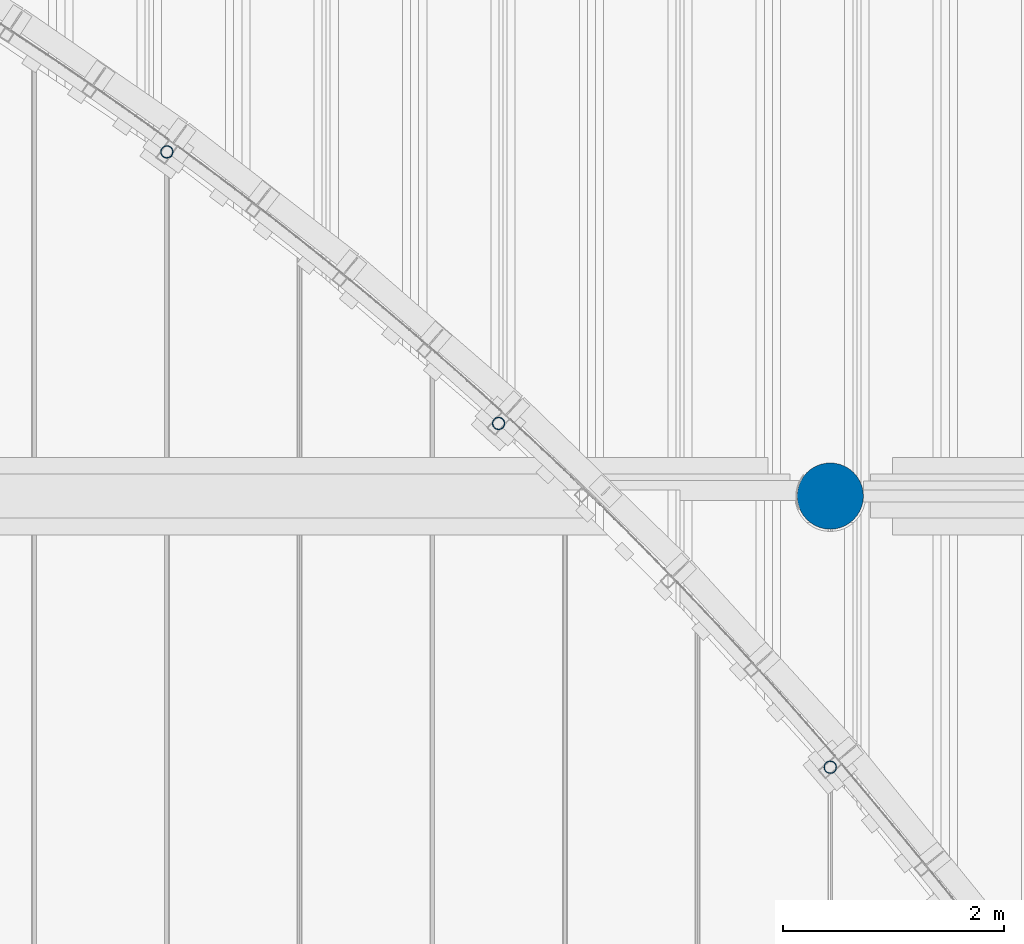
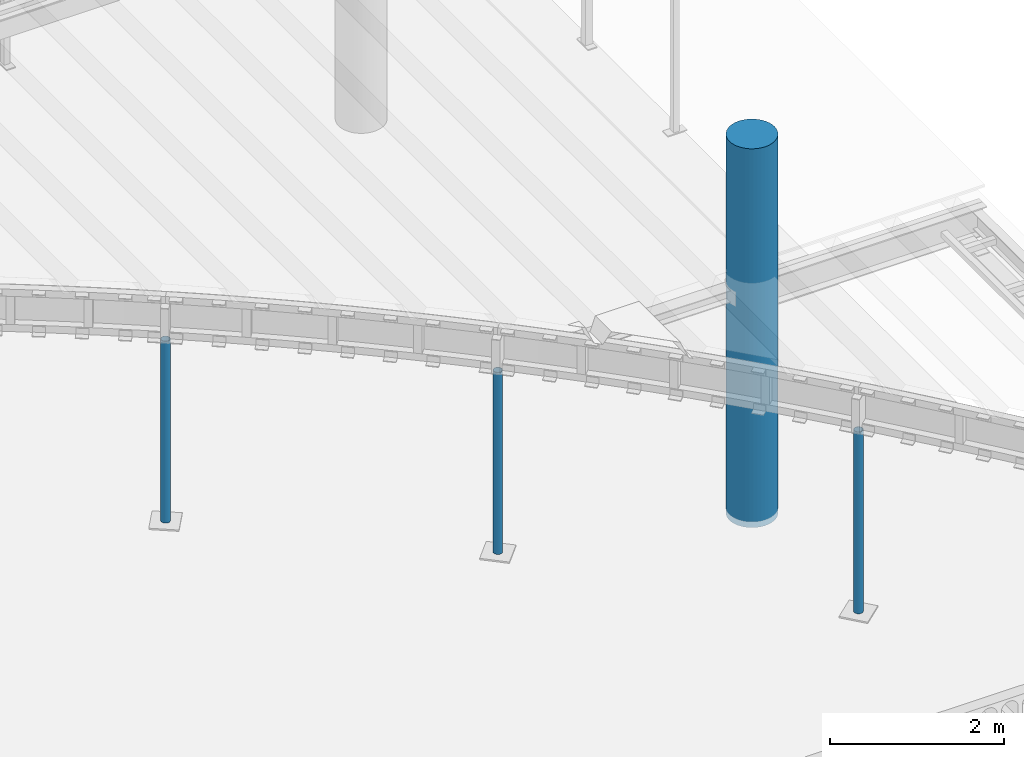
# One storey, part 1 of 98: 4 columns.
"""IFC2X3 building model written with IfcOpenShell, lengths in millimetres."""

from ifc_helpers import new_model, entity, si_unit, converted_unit, derived_unit, direction, frame, origin_with_axes, place, context, subcontext, project, spatial, faceted_brep, material, type_object, element, save


model = new_model("IFC2X3")

# Units and contexts
model_context = context("Model", 3, precision=0.01, world=frame((0.0, 4.29681676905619e-09, 0.0)), true_north=direction((4.01073788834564e-13, 1.0)))
plan_context = context("Plan", 3, precision=0.01, world=frame((0.0, 4.29681676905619e-09, 0.0)), true_north=direction((4.01073788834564e-13, 1.0)))
body_context = subcontext(model_context, "Body", "Model", "MODEL_VIEW")
ifc_project = project(units=[converted_unit("PLANEANGLEUNIT", "DEGREE", entity("IfcPositiveLengthMeasure", 0.0174532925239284), si_unit("PLANEANGLEUNIT", "RADIAN"), dimensions=[0, 0, 0, 0, 0, 0, 0]), si_unit("AREAUNIT", "SQUARE_METRE"), si_unit("LENGTHUNIT", "METRE", prefix="MILLI"), si_unit("MASSUNIT", "GRAM", prefix="KILO"), si_unit("POWERUNIT", "WATT"), si_unit("PRESSUREUNIT", "PASCAL"), si_unit("FORCEUNIT", "NEWTON", prefix="KILO"), si_unit("ELECTRICCURRENTUNIT", "AMPERE"), si_unit("THERMODYNAMICTEMPERATUREUNIT", "DEGREE_CELSIUS"), si_unit("TIMEUNIT", "SECOND"), si_unit("VOLUMEUNIT", "CUBIC_METRE"), derived_unit("LINEARVELOCITYUNIT", [(si_unit("LENGTHUNIT", "METRE"), 1), (si_unit("TIMEUNIT", "SECOND"), -1)]), derived_unit("VOLUMETRICFLOWRATEUNIT", [(si_unit("VOLUMEUNIT", "CUBIC_METRE"), 1), (si_unit("TIMEUNIT", "SECOND"), -1)]), derived_unit("THERMALTRANSMITTANCEUNIT", [(si_unit("POWERUNIT", "WATT"), 1), (si_unit("THERMODYNAMICTEMPERATUREUNIT", "KELVIN"), -1), (si_unit("AREAUNIT", "SQUARE_METRE"), -1)])], contexts=[model_context, plan_context])

# Site, building, storey
site_placement = place(None, frame((0.0, -4.29681676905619e-09, 0.0), z_axis=(0.0, 0.0, 1.0), x_axis=(1.0, 0.0, 0.0)))
site = spatial("IfcSite", under=ifc_project, at=site_placement, Name="Gardermoen", CompositionType="ELEMENT")
building_placement = place(site_placement, frame((0.0, 4.29681676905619e-09, 0.0), z_axis=(0.0, 0.0, 1.0), x_axis=(1.0, 0.0, 0.0)))
building = spatial("IfcBuilding", under=site, at=building_placement, Name="TS", CompositionType="ELEMENT")
storey_placement = place(building_placement, origin_with_axes())
storey = spatial("IfcBuildingStorey", under=building, at=storey_placement, Name="D", CompositionType="ELEMENT", Elevation=0.0)

# Columns
ifc_material_1 = material(Name="STEEL/S355")
column_type_1 = type_object("IfcColumnType", Name="RØR114.3X6.0", PredefinedType="NOTDEFINED")
column_1_placement = place(storey_placement, frame((522999.971294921, 408613.091807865, 203930.0), z_axis=(-0.807166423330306, 0.590323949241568, 0.0), x_axis=(0.0, 0.0, 1.0)))
element("IfcColumn", 1, at=column_1_placement, inside=storey, type_object=column_type_1, material=ifc_material_1, Name="STÅLSØYLE", ObjectType="RØR114.3X6.0", context=body_context, shape_type="Brep", body=[
    faceted_brep([(20.0, -51.1500000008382, -1.19325704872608e-09), (20.0, -48.6465408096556, 15.8062192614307), (2575.0, -48.6465408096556, 15.8062192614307), (2575.0, -51.1500000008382, -1.19325704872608e-09), (20.0, -41.3812192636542, 30.0652156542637), (2575.0, -41.3812192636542, 30.0652156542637), (20.0, -30.0652156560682, 41.3812192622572), (2575.0, -30.0652156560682, 41.3812192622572), (20.0, -15.8062192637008, 48.646540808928), (2575.0, -15.8062192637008, 48.646540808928), (20.0, -1.04773789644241e-09, 51.1500000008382), (2575.0, -1.04773789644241e-09, 51.1500000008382), (20.0, 15.8062192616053, 48.6465408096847), (2575.0, 15.8062192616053, 48.6465408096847), (20.0, 30.0652156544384, 41.3812192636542), (2575.0, 30.0652156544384, 41.3812192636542), (20.0, 41.3812192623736, 30.0652156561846), (2575.0, 41.3812192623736, 30.0652156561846), (20.0, 48.6465408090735, 15.8062192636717), (2575.0, 48.6465408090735, 15.8062192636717), (20.0, 51.1500000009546, 1.10594555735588e-09), (2575.0, 51.1500000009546, 1.10594555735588e-09), (20.0, 48.646540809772, -15.8062192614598), (2575.0, 48.646540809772, -15.8062192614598), (20.0, 41.3812192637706, -30.0652156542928), (2575.0, 41.3812192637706, -30.0652156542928), (20.0, 30.065215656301, -41.3812192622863), (2575.0, 30.065215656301, -41.3812192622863), (20.0, 15.8062192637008, -48.6465408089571), (2575.0, 15.8062192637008, -48.6465408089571), (20.0, 1.28056854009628e-09, -51.1500000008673), (2575.0, 1.28056854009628e-09, -51.1500000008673), (20.0, -15.8062192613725, -48.6465408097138), (2575.0, -15.8062192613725, -48.6465408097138), (20.0, -30.0652156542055, -41.3812192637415), (2575.0, -30.0652156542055, -41.3812192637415), (20.0, -41.3812192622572, -30.0652156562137), (2575.0, -41.3812192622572, -30.0652156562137), (20.0, -48.6465408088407, -15.8062192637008), (2575.0, -48.6465408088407, -15.8062192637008), (20.0, -57.1500000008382, -1.30967237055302e-09), (20.0, -54.3528799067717, -17.6603212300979), (2575.0, -54.3528799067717, -17.6603212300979), (2575.0, -57.1500000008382, -1.30967237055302e-09), (20.0, -46.2353212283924, -33.5919271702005), (2575.0, -46.2353212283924, -33.5919271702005), (20.0, -33.5919271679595, -46.2353212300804), (2575.0, -33.5919271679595, -46.2353212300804), (20.0, -17.6603212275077, -54.3528799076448), (2575.0, -17.6603212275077, -54.3528799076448), (20.0, 1.39698386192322e-09, -57.1500000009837), (2575.0, 1.39698386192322e-09, -57.1500000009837), (20.0, 17.6603212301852, -54.3528799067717), (2575.0, 17.6603212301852, -54.3528799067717), (20.0, 33.5919271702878, -46.2353212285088), (2575.0, 33.5919271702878, -46.2353212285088), (20.0, 46.2353212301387, -33.5919271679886), (2575.0, 46.2353212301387, -33.5919271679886), (20.0, 54.352879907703, -17.6603212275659), (2575.0, 54.352879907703, -17.6603212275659), (20.0, 57.150000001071, 1.30967237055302e-09), (2575.0, 57.150000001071, 1.30967237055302e-09), (20.0, 54.3528799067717, 17.6603212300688), (2575.0, 54.3528799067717, 17.6603212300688), (20.0, 46.2353212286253, 33.5919271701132), (2575.0, 46.2353212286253, 33.5919271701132), (20.0, 33.5919271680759, 46.2353212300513), (2575.0, 33.5919271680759, 46.2353212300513), (20.0, 17.6603212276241, 54.3528799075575), (2575.0, 17.6603212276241, 54.3528799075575), (20.0, -1.16415321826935e-09, 57.1500000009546), (2575.0, -1.16415321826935e-09, 57.1500000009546), (20.0, -17.6603212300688, 54.3528799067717), (2575.0, -17.6603212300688, 54.3528799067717), (20.0, -33.591927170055, 46.2353212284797), (2575.0, -33.591927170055, 46.2353212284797), (20.0, -46.2353212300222, 33.5919271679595), (2575.0, -46.2353212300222, 33.5919271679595), (20.0, -54.3528799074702, 17.6603212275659), (2575.0, -54.3528799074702, 17.6603212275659)], [[[0, 1, 2, 3]], [[1, 4, 5, 2]], [[4, 6, 7, 5]], [[6, 8, 9, 7]], [[8, 10, 11, 9]], [[10, 12, 13, 11]], [[12, 14, 15, 13]], [[14, 16, 17, 15]], [[16, 18, 19, 17]], [[18, 20, 21, 19]], [[20, 22, 23, 21]], [[22, 24, 25, 23]], [[24, 26, 27, 25]], [[26, 28, 29, 27]], [[28, 30, 31, 29]], [[30, 32, 33, 31]], [[32, 34, 35, 33]], [[34, 36, 37, 35]], [[36, 38, 39, 37]], [[38, 0, 3, 39]], [[40, 41, 42, 43]], [[41, 44, 45, 42]], [[44, 46, 47, 45]], [[46, 48, 49, 47]], [[48, 50, 51, 49]], [[50, 52, 53, 51]], [[52, 54, 55, 53]], [[54, 56, 57, 55]], [[56, 58, 59, 57]], [[58, 60, 61, 59]], [[60, 62, 63, 61]], [[62, 64, 65, 63]], [[64, 66, 67, 65]], [[66, 68, 69, 67]], [[68, 70, 71, 69]], [[70, 72, 73, 71]], [[72, 74, 75, 73]], [[74, 76, 77, 75]], [[76, 78, 79, 77]], [[78, 40, 43, 79]], [[45, 47, 49, 51, 53, 55, 57, 59, 61, 63, 65, 67, 69, 71, 73, 75, 77, 79, 43, 42], [5, 7, 9, 11, 13, 15, 17, 19, 21, 23, 25, 27, 29, 31, 33, 35, 37, 39, 3, 2]], [[78, 76, 74, 72, 70, 68, 66, 64, 62, 60, 58, 56, 54, 52, 50, 48, 46, 44, 41, 40], [38, 36, 34, 32, 30, 28, 26, 24, 22, 20, 18, 16, 14, 12, 10, 8, 6, 4, 1, 0]]]),
])
column_2_placement = place(storey_placement, frame((525999.998435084, 406157.084929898, 203930.0), z_axis=(-0.737843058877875, 0.674972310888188, 0.0), x_axis=(0.0, 0.0, 1.0)))
element("IfcColumn", 2, at=column_2_placement, inside=storey, type_object=column_type_1, material=ifc_material_1, Name="STÅLSØYLE", ObjectType="RØR114.3X6.0", context=body_context, shape_type="Brep", body=[
    faceted_brep([(20.0, -51.1500000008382, -1.19325704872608e-09), (20.0, -48.6465408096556, 15.8062192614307), (2575.0, -48.6465408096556, 15.8062192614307), (2575.0, -51.1500000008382, -1.19325704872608e-09), (20.0, -41.3812192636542, 30.0652156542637), (2575.0, -41.3812192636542, 30.0652156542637), (20.0, -30.0652156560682, 41.3812192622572), (2575.0, -30.0652156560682, 41.3812192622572), (20.0, -15.8062192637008, 48.646540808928), (2575.0, -15.8062192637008, 48.646540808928), (20.0, -1.04773789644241e-09, 51.1500000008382), (2575.0, -1.04773789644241e-09, 51.1500000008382), (20.0, 15.8062192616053, 48.6465408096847), (2575.0, 15.8062192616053, 48.6465408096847), (20.0, 30.0652156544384, 41.3812192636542), (2575.0, 30.0652156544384, 41.3812192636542), (20.0, 41.3812192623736, 30.0652156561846), (2575.0, 41.3812192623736, 30.0652156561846), (20.0, 48.6465408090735, 15.8062192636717), (2575.0, 48.6465408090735, 15.8062192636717), (20.0, 51.1500000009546, 1.10594555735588e-09), (2575.0, 51.1500000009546, 1.10594555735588e-09), (20.0, 48.646540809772, -15.8062192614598), (2575.0, 48.646540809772, -15.8062192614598), (20.0, 41.3812192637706, -30.0652156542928), (2575.0, 41.3812192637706, -30.0652156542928), (20.0, 30.065215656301, -41.3812192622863), (2575.0, 30.065215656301, -41.3812192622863), (20.0, 15.8062192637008, -48.6465408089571), (2575.0, 15.8062192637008, -48.6465408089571), (20.0, 1.28056854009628e-09, -51.1500000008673), (2575.0, 1.28056854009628e-09, -51.1500000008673), (20.0, -15.8062192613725, -48.6465408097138), (2575.0, -15.8062192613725, -48.6465408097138), (20.0, -30.0652156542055, -41.3812192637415), (2575.0, -30.0652156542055, -41.3812192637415), (20.0, -41.3812192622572, -30.0652156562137), (2575.0, -41.3812192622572, -30.0652156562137), (20.0, -48.6465408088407, -15.8062192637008), (2575.0, -48.6465408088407, -15.8062192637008), (20.0, -57.1500000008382, -1.30967237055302e-09), (20.0, -54.3528799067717, -17.6603212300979), (2575.0, -54.3528799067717, -17.6603212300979), (2575.0, -57.1500000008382, -1.30967237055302e-09), (20.0, -46.2353212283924, -33.5919271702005), (2575.0, -46.2353212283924, -33.5919271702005), (20.0, -33.5919271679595, -46.2353212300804), (2575.0, -33.5919271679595, -46.2353212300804), (20.0, -17.6603212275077, -54.3528799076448), (2575.0, -17.6603212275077, -54.3528799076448), (20.0, 1.39698386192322e-09, -57.1500000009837), (2575.0, 1.39698386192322e-09, -57.1500000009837), (20.0, 17.6603212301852, -54.3528799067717), (2575.0, 17.6603212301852, -54.3528799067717), (20.0, 33.5919271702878, -46.2353212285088), (2575.0, 33.5919271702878, -46.2353212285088), (20.0, 46.2353212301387, -33.5919271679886), (2575.0, 46.2353212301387, -33.5919271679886), (20.0, 54.352879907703, -17.6603212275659), (2575.0, 54.352879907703, -17.6603212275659), (20.0, 57.150000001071, 1.30967237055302e-09), (2575.0, 57.150000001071, 1.30967237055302e-09), (20.0, 54.3528799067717, 17.6603212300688), (2575.0, 54.3528799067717, 17.6603212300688), (20.0, 46.2353212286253, 33.5919271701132), (2575.0, 46.2353212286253, 33.5919271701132), (20.0, 33.5919271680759, 46.2353212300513), (2575.0, 33.5919271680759, 46.2353212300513), (20.0, 17.6603212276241, 54.3528799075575), (2575.0, 17.6603212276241, 54.3528799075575), (20.0, -1.16415321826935e-09, 57.1500000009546), (2575.0, -1.16415321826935e-09, 57.1500000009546), (20.0, -17.6603212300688, 54.3528799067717), (2575.0, -17.6603212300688, 54.3528799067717), (20.0, -33.591927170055, 46.2353212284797), (2575.0, -33.591927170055, 46.2353212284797), (20.0, -46.2353212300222, 33.5919271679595), (2575.0, -46.2353212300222, 33.5919271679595), (20.0, -54.3528799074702, 17.6603212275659), (2575.0, -54.3528799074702, 17.6603212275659)], [[[0, 1, 2, 3]], [[1, 4, 5, 2]], [[4, 6, 7, 5]], [[6, 8, 9, 7]], [[8, 10, 11, 9]], [[10, 12, 13, 11]], [[12, 14, 15, 13]], [[14, 16, 17, 15]], [[16, 18, 19, 17]], [[18, 20, 21, 19]], [[20, 22, 23, 21]], [[22, 24, 25, 23]], [[24, 26, 27, 25]], [[26, 28, 29, 27]], [[28, 30, 31, 29]], [[30, 32, 33, 31]], [[32, 34, 35, 33]], [[34, 36, 37, 35]], [[36, 38, 39, 37]], [[38, 0, 3, 39]], [[40, 41, 42, 43]], [[41, 44, 45, 42]], [[44, 46, 47, 45]], [[46, 48, 49, 47]], [[48, 50, 51, 49]], [[50, 52, 53, 51]], [[52, 54, 55, 53]], [[54, 56, 57, 55]], [[56, 58, 59, 57]], [[58, 60, 61, 59]], [[60, 62, 63, 61]], [[62, 64, 65, 63]], [[64, 66, 67, 65]], [[66, 68, 69, 67]], [[68, 70, 71, 69]], [[70, 72, 73, 71]], [[72, 74, 75, 73]], [[74, 76, 77, 75]], [[76, 78, 79, 77]], [[78, 40, 43, 79]], [[45, 47, 49, 51, 53, 55, 57, 59, 61, 63, 65, 67, 69, 71, 73, 75, 77, 79, 43, 42], [5, 7, 9, 11, 13, 15, 17, 19, 21, 23, 25, 27, 29, 31, 33, 35, 37, 39, 3, 2]], [[78, 76, 74, 72, 70, 68, 66, 64, 62, 60, 58, 56, 54, 52, 50, 48, 46, 44, 41, 40], [38, 36, 34, 32, 30, 28, 26, 24, 22, 20, 18, 16, 14, 12, 10, 8, 6, 4, 1, 0]]]),
])
column_type_2 = type_object("IfcColumnType", Name="RØR114.3X5.0", PredefinedType="NOTDEFINED")
column_3_placement = place(storey_placement, frame((529000.0, 403047.744245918, 203930.0), z_axis=(-0.759100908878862, -0.650972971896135, 0.0), x_axis=(0.0, 0.0, 1.0)))
element("IfcColumn", 3, at=column_3_placement, inside=storey, type_object=column_type_2, material=ifc_material_1, Name="STÅLSØYLE", ObjectType="RØR114.3X5.0", context=body_context, shape_type="Brep", body=[
    faceted_brep([(20.0, -52.1500000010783, -1.16415321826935e-09), (20.0, -49.5975973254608, 16.1152362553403), (2575.0, -49.5975973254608, 16.1152362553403), (2575.0, -52.1500000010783, -1.16415321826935e-09), (20.0, -42.1902362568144, 30.6530009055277), (2575.0, -42.1902362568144, 30.6530009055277), (20.0, -30.6530009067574, 42.1902362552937), (2575.0, -30.6530009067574, 42.1902362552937), (20.0, -16.1152362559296, 49.5975973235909), (2575.0, -16.1152362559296, 49.5975973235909), (20.0, 1.04046193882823e-09, 52.1499999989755), (2575.0, 1.04046193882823e-09, 52.1499999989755), (20.0, 16.1152362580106, 49.5975973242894), (2575.0, 16.1152362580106, 49.5975973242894), (20.0, 30.6530009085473, 42.1902362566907), (2575.0, 30.6530009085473, 42.1902362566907), (20.0, 42.1902362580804, 30.6530009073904), (2575.0, 42.1902362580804, 30.6530009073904), (20.0, 49.5975973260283, 16.1152362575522), (2575.0, 49.5975973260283, 16.1152362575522), (20.0, 52.1500000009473, 1.16415321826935e-09), (2575.0, 52.1500000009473, 1.16415321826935e-09), (20.0, 49.5975973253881, -16.1152362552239), (2575.0, 49.5975973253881, -16.1152362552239), (20.0, 42.1902362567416, -30.6530009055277), (2575.0, 42.1902362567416, -30.6530009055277), (20.0, 30.6530009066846, -42.1902362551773), (2575.0, 30.6530009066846, -42.1902362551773), (20.0, 16.1152362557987, -49.5975973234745), (2575.0, 16.1152362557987, -49.5975973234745), (20.0, -1.17142917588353e-09, -52.1499999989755), (2575.0, -1.17142917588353e-09, -52.1499999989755), (20.0, -16.1152362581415, -49.5975973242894), (2575.0, -16.1152362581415, -49.5975973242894), (20.0, -30.6530009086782, -42.1902362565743), (2575.0, -30.6530009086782, -42.1902362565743), (20.0, -42.190236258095, -30.6530009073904), (2575.0, -42.190236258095, -30.6530009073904), (20.0, -49.5975973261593, -16.1152362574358), (2575.0, -49.5975973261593, -16.1152362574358), (20.0, -57.1500000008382, -1.30967237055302e-09), (20.0, -54.3528799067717, -17.6603212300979), (2575.0, -54.3528799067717, -17.6603212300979), (2575.0, -57.1500000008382, -1.30967237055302e-09), (20.0, -46.2353212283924, -33.5919271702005), (2575.0, -46.2353212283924, -33.5919271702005), (20.0, -33.5919271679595, -46.2353212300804), (2575.0, -33.5919271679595, -46.2353212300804), (20.0, -17.6603212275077, -54.3528799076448), (2575.0, -17.6603212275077, -54.3528799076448), (20.0, 1.39698386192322e-09, -57.1500000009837), (2575.0, 1.39698386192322e-09, -57.1500000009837), (20.0, 17.6603212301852, -54.3528799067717), (2575.0, 17.6603212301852, -54.3528799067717), (20.0, 33.5919271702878, -46.2353212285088), (2575.0, 33.5919271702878, -46.2353212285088), (20.0, 46.2353212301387, -33.5919271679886), (2575.0, 46.2353212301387, -33.5919271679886), (20.0, 54.352879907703, -17.6603212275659), (2575.0, 54.352879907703, -17.6603212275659), (20.0, 57.150000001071, 1.30967237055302e-09), (2575.0, 57.150000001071, 1.30967237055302e-09), (20.0, 54.3528799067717, 17.6603212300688), (2575.0, 54.3528799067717, 17.6603212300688), (20.0, 46.2353212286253, 33.5919271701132), (2575.0, 46.2353212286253, 33.5919271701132), (20.0, 33.5919271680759, 46.2353212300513), (2575.0, 33.5919271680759, 46.2353212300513), (20.0, 17.6603212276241, 54.3528799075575), (2575.0, 17.6603212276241, 54.3528799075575), (20.0, -1.16415321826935e-09, 57.1500000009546), (2575.0, -1.16415321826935e-09, 57.1500000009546), (20.0, -17.6603212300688, 54.3528799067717), (2575.0, -17.6603212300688, 54.3528799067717), (20.0, -33.591927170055, 46.2353212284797), (2575.0, -33.591927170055, 46.2353212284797), (20.0, -46.2353212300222, 33.5919271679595), (2575.0, -46.2353212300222, 33.5919271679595), (20.0, -54.3528799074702, 17.6603212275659), (2575.0, -54.3528799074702, 17.6603212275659)], [[[0, 1, 2, 3]], [[1, 4, 5, 2]], [[4, 6, 7, 5]], [[6, 8, 9, 7]], [[8, 10, 11, 9]], [[10, 12, 13, 11]], [[12, 14, 15, 13]], [[14, 16, 17, 15]], [[16, 18, 19, 17]], [[18, 20, 21, 19]], [[20, 22, 23, 21]], [[22, 24, 25, 23]], [[24, 26, 27, 25]], [[26, 28, 29, 27]], [[28, 30, 31, 29]], [[30, 32, 33, 31]], [[32, 34, 35, 33]], [[34, 36, 37, 35]], [[36, 38, 39, 37]], [[38, 0, 3, 39]], [[40, 41, 42, 43]], [[41, 44, 45, 42]], [[44, 46, 47, 45]], [[46, 48, 49, 47]], [[48, 50, 51, 49]], [[50, 52, 53, 51]], [[52, 54, 55, 53]], [[54, 56, 57, 55]], [[56, 58, 59, 57]], [[58, 60, 61, 59]], [[60, 62, 63, 61]], [[62, 64, 65, 63]], [[64, 66, 67, 65]], [[66, 68, 69, 67]], [[68, 70, 71, 69]], [[70, 72, 73, 71]], [[72, 74, 75, 73]], [[74, 76, 77, 75]], [[76, 78, 79, 77]], [[78, 40, 43, 79]], [[45, 47, 49, 51, 53, 55, 57, 59, 61, 63, 65, 67, 69, 71, 73, 75, 77, 79, 43, 42], [5, 7, 9, 11, 13, 15, 17, 19, 21, 23, 25, 27, 29, 31, 33, 35, 37, 39, 3, 2]], [[78, 76, 74, 72, 70, 68, 66, 64, 62, 60, 58, 56, 54, 52, 50, 48, 46, 44, 41, 40], [38, 36, 34, 32, 30, 28, 26, 24, 22, 20, 18, 16, 14, 12, 10, 8, 6, 4, 1, 0]]]),
])
ifc_material_2 = material(Name="CONCRETE/C45/55")
column_type_3 = type_object("IfcColumnType", Name="D600", PredefinedType="NOTDEFINED")
column_4_placement = place(storey_placement, frame((529000.0, 405500.0, 203845.0), z_axis=(0.0, 1.0, 0.0), x_axis=(0.0, 0.0, 1.0)))
element("IfcColumn", 4, at=column_4_placement, inside=storey, type_object=column_type_3, material=ifc_material_2, Name="PREFABSØYLE", ObjectType="D600", context=body_context, shape_type="Brep", body=[
    faceted_brep([(0.0, -300.0, 0.0), (0.0, -296.306502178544, -46.930339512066), (5325.0, -296.306502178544, -46.930339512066), (5325.0, -300.0, 0.0), (0.0, -285.31695488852, -92.7050983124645), (5325.0, -285.31695488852, -92.7050983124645), (0.0, -267.30195725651, -136.197149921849), (5325.0, -267.30195725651, -136.197149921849), (0.0, -242.705098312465, -176.335575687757), (5325.0, -242.705098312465, -176.335575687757), (0.0, -212.132034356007, -212.132034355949), (5325.0, -212.132034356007, -212.132034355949), (0.0, -176.335575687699, -242.705098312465), (5325.0, -176.335575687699, -242.705098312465), (0.0, -136.197149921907, -267.30195725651), (5325.0, -136.197149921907, -267.30195725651), (0.0, -92.7050983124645, -285.31695488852), (5325.0, -92.7050983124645, -285.31695488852), (0.0, -46.930339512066, -296.306502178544), (5325.0, -46.930339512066, -296.306502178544), (0.0, 0.0, -300.0), (5325.0, 0.0, -300.0), (0.0, 46.930339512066, -296.306502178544), (5325.0, 46.930339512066, -296.306502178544), (0.0, 92.7050983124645, -285.31695488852), (5325.0, 92.7050983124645, -285.31695488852), (0.0, 136.197149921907, -267.30195725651), (5325.0, 136.197149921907, -267.30195725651), (0.0, 176.335575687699, -242.705098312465), (5325.0, 176.335575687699, -242.705098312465), (0.0, 212.132034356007, -212.132034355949), (5325.0, 212.132034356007, -212.132034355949), (0.0, 242.705098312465, -176.335575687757), (5325.0, 242.705098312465, -176.335575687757), (0.0, 267.30195725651, -136.197149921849), (5325.0, 267.30195725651, -136.197149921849), (0.0, 285.31695488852, -92.7050983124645), (5325.0, 285.31695488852, -92.7050983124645), (0.0, 296.306502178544, -46.930339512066), (5325.0, 296.306502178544, -46.930339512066), (0.0, 300.0, 0.0), (5325.0, 300.0, 0.0), (0.0, 296.306502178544, 46.930339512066), (5325.0, 296.306502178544, 46.930339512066), (0.0, 285.31695488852, 92.7050983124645), (5325.0, 285.31695488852, 92.7050983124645), (0.0, 267.30195725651, 136.197149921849), (5325.0, 267.30195725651, 136.197149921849), (0.0, 242.705098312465, 176.335575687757), (5325.0, 242.705098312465, 176.335575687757), (0.0, 212.132034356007, 212.132034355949), (5325.0, 212.132034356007, 212.132034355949), (0.0, 176.335575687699, 242.705098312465), (5325.0, 176.335575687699, 242.705098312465), (0.0, 136.197149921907, 267.30195725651), (5325.0, 136.197149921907, 267.30195725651), (0.0, 92.7050983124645, 285.31695488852), (5325.0, 92.7050983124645, 285.31695488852), (0.0, 46.930339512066, 296.306502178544), (5325.0, 46.930339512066, 296.306502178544), (0.0, 0.0, 300.0), (5325.0, 0.0, 300.0), (0.0, -46.930339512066, 296.306502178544), (5325.0, -46.930339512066, 296.306502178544), (0.0, -92.7050983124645, 285.31695488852), (5325.0, -92.7050983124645, 285.31695488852), (0.0, -136.197149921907, 267.30195725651), (5325.0, -136.197149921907, 267.30195725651), (0.0, -176.335575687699, 242.705098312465), (5325.0, -176.335575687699, 242.705098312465), (0.0, -212.132034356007, 212.132034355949), (5325.0, -212.132034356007, 212.132034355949), (0.0, -242.705098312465, 176.335575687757), (5325.0, -242.705098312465, 176.335575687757), (0.0, -267.30195725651, 136.197149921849), (5325.0, -267.30195725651, 136.197149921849), (0.0, -285.31695488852, 92.7050983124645), (5325.0, -285.31695488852, 92.7050983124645), (0.0, -296.306502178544, 46.930339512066), (5325.0, -296.306502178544, 46.930339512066)], [[[0, 1, 2, 3]], [[1, 4, 5, 2]], [[4, 6, 7, 5]], [[6, 8, 9, 7]], [[8, 10, 11, 9]], [[10, 12, 13, 11]], [[12, 14, 15, 13]], [[14, 16, 17, 15]], [[16, 18, 19, 17]], [[18, 20, 21, 19]], [[20, 22, 23, 21]], [[22, 24, 25, 23]], [[24, 26, 27, 25]], [[26, 28, 29, 27]], [[28, 30, 31, 29]], [[30, 32, 33, 31]], [[32, 34, 35, 33]], [[34, 36, 37, 35]], [[36, 38, 39, 37]], [[38, 40, 41, 39]], [[40, 42, 43, 41]], [[42, 44, 45, 43]], [[44, 46, 47, 45]], [[46, 48, 49, 47]], [[48, 50, 51, 49]], [[50, 52, 53, 51]], [[52, 54, 55, 53]], [[54, 56, 57, 55]], [[56, 58, 59, 57]], [[58, 60, 61, 59]], [[60, 62, 63, 61]], [[62, 64, 65, 63]], [[64, 66, 67, 65]], [[66, 68, 69, 67]], [[68, 70, 71, 69]], [[70, 72, 73, 71]], [[72, 74, 75, 73]], [[74, 76, 77, 75]], [[76, 78, 79, 77]], [[78, 0, 3, 79]], [[5, 7, 9, 11, 13, 15, 17, 19, 21, 23, 25, 27, 29, 31, 33, 35, 37, 39, 41, 43, 45, 47, 49, 51, 53, 55, 57, 59, 61, 63, 65, 67, 69, 71, 73, 75, 77, 79, 3, 2]], [[78, 76, 74, 72, 70, 68, 66, 64, 62, 60, 58, 56, 54, 52, 50, 48, 46, 44, 42, 40, 38, 36, 34, 32, 30, 28, 26, 24, 22, 20, 18, 16, 14, 12, 10, 8, 6, 4, 1, 0]]]),
])

save(model, "model.ifc")
